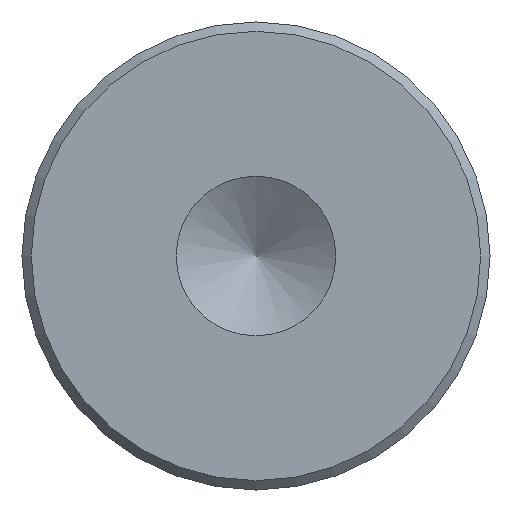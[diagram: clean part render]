
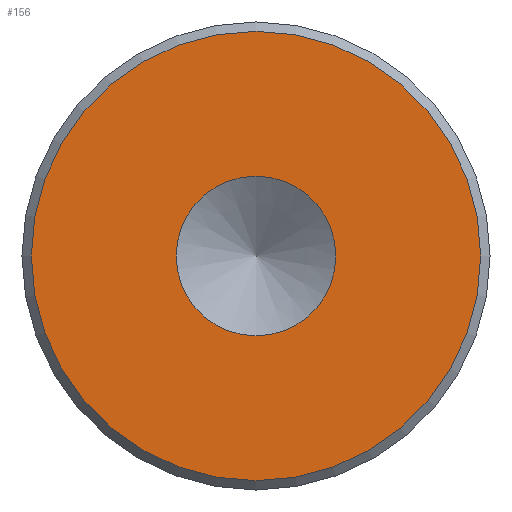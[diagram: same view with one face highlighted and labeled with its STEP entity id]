
A CAD part, front view. The second image highlights one B-rep face of the part: STEP entity #156.
In plain terms, the highlighted planar face has unit normal (0, -1, 0).
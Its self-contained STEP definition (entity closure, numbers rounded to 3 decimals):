
#16=FACE_BOUND('',#46,.T.);
#20=PLANE('',#193);
#33=FACE_OUTER_BOUND('',#45,.T.);
#45=EDGE_LOOP('',(#137));
#46=EDGE_LOOP('',(#138));
#63=CIRCLE('',#175,4.263);
#71=CIRCLE('',#189,12.);
#76=VERTEX_POINT('',#257);
#83=VERTEX_POINT('',#281);
#88=EDGE_CURVE('',#76,#76,#63,.T.);
#99=EDGE_CURVE('',#83,#83,#71,.T.);
#137=ORIENTED_EDGE('',*,*,#99,.F.);
#138=ORIENTED_EDGE('',*,*,#88,.T.);
#156=ADVANCED_FACE('',(#33,#16),#20,.F.);
#175=AXIS2_PLACEMENT_3D('',#258,#204,#205);
#189=AXIS2_PLACEMENT_3D('',#282,#235,#236);
#193=AXIS2_PLACEMENT_3D('',#290,#245,#246);
#204=DIRECTION('center_axis',(0.,1.,0.));
#205=DIRECTION('ref_axis',(0.,0.,-1.));
#235=DIRECTION('center_axis',(0.,1.,0.));
#236=DIRECTION('ref_axis',(-1.,0.,0.));
#245=DIRECTION('center_axis',(0.,1.,0.));
#246=DIRECTION('ref_axis',(-1.,0.,0.));
#257=CARTESIAN_POINT('',(0.,-125.,4.263));
#258=CARTESIAN_POINT('Origin',(0.,-125.,0.));
#281=CARTESIAN_POINT('',(12.,-125.,0.));
#282=CARTESIAN_POINT('Origin',(0.,-125.,0.));
#290=CARTESIAN_POINT('Origin',(0.,-125.,0.));
